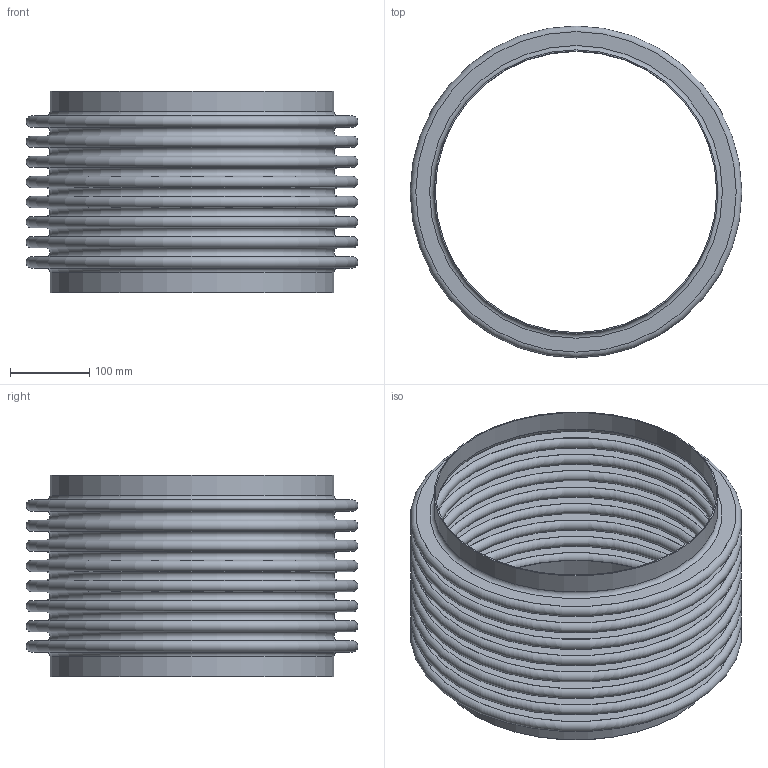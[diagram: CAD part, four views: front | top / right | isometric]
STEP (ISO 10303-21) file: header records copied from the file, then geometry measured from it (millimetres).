
FILE_DESCRIPTION(/* description */ ('STOCK BELLOWS: U.S-14-8-150S, 14.000 I.D., 16.500 O.D., 1 PLY, 16 GA (0.060 THICK), 8 CONS., 1.000 PITCH, 1.000 TANGENT. '),/* implementation_level */ '2;1');
FILE_NAME(/* name */ 'STOCK BELLOW - US-14-8-150S.stp',/* time_stamp */ '2026-07-21T13:04:20-05:00',/* author */ ('KennethB'),/* organization */ (''),/* preprocessor_version */ 'ST-DEVELOPER v20.1',/* originating_system */ 'Autodesk Inventor 2026',/* authorisation */ '');
FILE_SCHEMA (('AUTOMOTIVE_DESIGN { 1 0 10303 214 3 1 1 }'));
Length unit declared in the file: inch
Products named in the file (1): STOCK BELLOW - US-14-8-150S
Bounding box: 419.1 x 419.1 x 254 mm (x, y, z)
Volume: 1198850.7 mm3; surface area: 1583553.9 mm2
Topology: 3 solids, 3 shells, 76 faces, 114 edges, 77 vertices
Faces by surface type: plane 38, torus 34, cylinder 4
Full cylindrical faces by diameter (mm): 355.6 x2, 358.648 x2
Entity records: 1814 total; most frequent: DIRECTION 378, CARTESIAN_POINT 268, ORIENTED_EDGE 228, AXIS2_PLACEMENT_3D 187, EDGE_LOOP 114, EDGE_CURVE 114, CIRCLE 110, FACE_OUTER_BOUND 76
